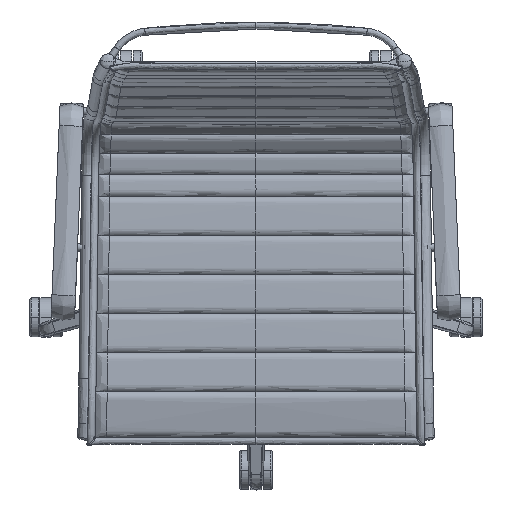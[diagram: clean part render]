
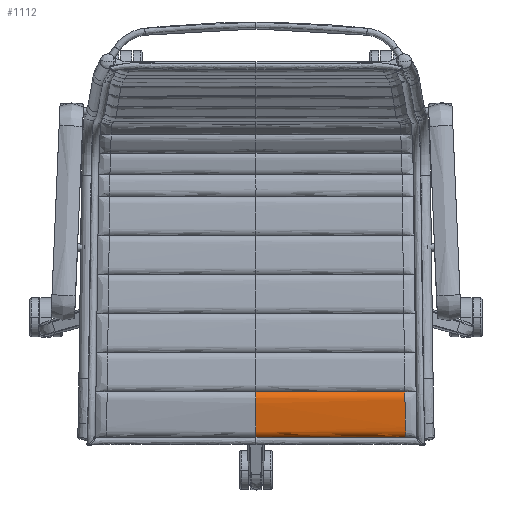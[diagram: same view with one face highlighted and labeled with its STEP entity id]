
A CAD part, top view. The second image highlights one B-rep face of the part: STEP entity #1112.
In plain terms, the highlighted free-form (B-spline) face has degree [1, 3] with [2, 18] control points.
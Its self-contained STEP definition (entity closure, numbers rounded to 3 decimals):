
#274=B_SPLINE_CURVE_WITH_KNOTS('',3,(#18597,#18598,#18599,#18600,#18601,
#18602,#18603,#18604,#18605,#18606,#18607,#18608,#18609,#18610,#18611,#18612,
#18613,#18614),.UNSPECIFIED.,.F.,.F.,(4,1,1,1,1,1,1,1,1,1,1,1,1,1,1,4),
(0.,5.218,7.859,10.489,13.074,
14.668,18.957,42.414,48.226,52.742,
57.543,62.,64.603,67.244,69.904,
75.155),.UNSPECIFIED.);
#275=B_SPLINE_CURVE_WITH_KNOTS('',1,(#18615,#18616),.UNSPECIFIED.,.F.,.F.,
(2,2),(0.,229.983),.UNSPECIFIED.);
#276=B_SPLINE_CURVE_WITH_KNOTS('',3,(#18617,#18618,#18619,#18620,#18621,
#18622,#18623,#18624,#18625,#18626,#18627,#18628,#18629,#18630,#18631,#18632,
#18633,#18634,#18635,#18636,#18637,#18638,#18639,#18640,#18641,#18642,#18643,
#18644,#18645,#18646,#18647,#18648,#18649,#18650,#18651,#18652,#18653,#18654,
#18655,#18656,#18657,#18658,#18659,#18660,#18661,#18662,#18663,#18664),
 .UNSPECIFIED.,.F.,.F.,(4,3,3,3,3,3,3,3,3,3,3,3,2,3,3,3,4),(0.,5.272,
7.939,10.583,13.187,17.644,22.444,
26.958,32.769,56.228,60.516,62.11,
63.403,64.696,67.33,69.98,75.221),
 .UNSPECIFIED.);
#277=B_SPLINE_CURVE_WITH_KNOTS('',1,(#18665,#18666),.UNSPECIFIED.,.F.,.F.,
(2,2),(-228.563,0.),.UNSPECIFIED.);
#849=B_SPLINE_SURFACE_WITH_KNOTS('',1,3,((#14533,#14534,#14535,#14536,#14537,
#14538,#14539,#14540,#14541,#14542,#14543,#14544,#14545,#14546,#14547,#14548,
#14549,#14550),(#14551,#14552,#14553,#14554,#14555,#14556,#14557,#14558,
#14559,#14560,#14561,#14562,#14563,#14564,#14565,#14566,#14567,#14568)),
 .UNSPECIFIED.,.F.,.F.,.F.,(2,2),(4,1,1,1,1,1,1,1,1,1,1,1,1,1,1,4),(0.,
295.915),(0.,5.218,7.859,10.489,
13.074,14.668,18.957,42.414,48.226,
52.742,57.543,62.,64.603,67.244,
69.904,75.155),.UNSPECIFIED.);
#1112=ADVANCED_FACE('',(#1716),#849,.T.);
#1716=FACE_OUTER_BOUND('',#2320,.T.);
#2320=EDGE_LOOP('',(#3108,#3109,#3110,#3111));
#3108=ORIENTED_EDGE('',*,*,#5635,.F.);
#3109=ORIENTED_EDGE('',*,*,#5634,.F.);
#3110=ORIENTED_EDGE('',*,*,#5637,.F.);
#3111=ORIENTED_EDGE('',*,*,#5636,.F.);
#5634=EDGE_CURVE('',#7763,#7765,#274,.T.);
#5635=EDGE_CURVE('',#7765,#7784,#275,.T.);
#5636=EDGE_CURVE('',#7784,#7785,#276,.T.);
#5637=EDGE_CURVE('',#7785,#7763,#277,.T.);
#7763=VERTEX_POINT('',#17568);
#7765=VERTEX_POINT('',#17570);
#7784=VERTEX_POINT('',#17589);
#7785=VERTEX_POINT('',#17590);
#14533=CARTESIAN_POINT('',(228.563,-201.438,489.057));
#14534=CARTESIAN_POINT('',(228.524,-202.47,490.457));
#14535=CARTESIAN_POINT('',(228.476,-204.297,492.387));
#14536=CARTESIAN_POINT('',(228.46,-207.429,494.022));
#14537=CARTESIAN_POINT('',(228.475,-209.985,494.64));
#14538=CARTESIAN_POINT('',(228.506,-212.259,494.777));
#14539=CARTESIAN_POINT('',(228.554,-215.079,494.69));
#14540=CARTESIAN_POINT('',(228.729,-224.842,494.129));
#14541=CARTESIAN_POINT('',(228.95,-235.975,492.973));
#14542=CARTESIAN_POINT('',(229.195,-247.098,491.223));
#14543=CARTESIAN_POINT('',(229.308,-252.064,490.353));
#14544=CARTESIAN_POINT('',(229.412,-256.577,489.518));
#14545=CARTESIAN_POINT('',(229.499,-260.477,488.865));
#14546=CARTESIAN_POINT('',(229.582,-263.604,488.02));
#14547=CARTESIAN_POINT('',(229.664,-265.997,486.891));
#14548=CARTESIAN_POINT('',(229.796,-268.783,484.692));
#14549=CARTESIAN_POINT('',(229.908,-270.216,482.431));
#14550=CARTESIAN_POINT('',(229.983,-270.955,480.847));
#14551=CARTESIAN_POINT('',(-67.352,-201.438,489.057));
#14552=CARTESIAN_POINT('',(-67.391,-202.47,490.457));
#14553=CARTESIAN_POINT('',(-67.439,-204.297,492.387));
#14554=CARTESIAN_POINT('',(-67.455,-207.429,494.022));
#14555=CARTESIAN_POINT('',(-67.439,-209.985,494.64));
#14556=CARTESIAN_POINT('',(-67.409,-212.259,494.777));
#14557=CARTESIAN_POINT('',(-67.361,-215.079,494.69));
#14558=CARTESIAN_POINT('',(-67.185,-224.842,494.129));
#14559=CARTESIAN_POINT('',(-66.964,-235.975,492.973));
#14560=CARTESIAN_POINT('',(-66.72,-247.098,491.223));
#14561=CARTESIAN_POINT('',(-66.607,-252.064,490.353));
#14562=CARTESIAN_POINT('',(-66.503,-256.577,489.518));
#14563=CARTESIAN_POINT('',(-66.416,-260.477,488.865));
#14564=CARTESIAN_POINT('',(-66.333,-263.604,488.02));
#14565=CARTESIAN_POINT('',(-66.25,-265.997,486.891));
#14566=CARTESIAN_POINT('',(-66.119,-268.783,484.692));
#14567=CARTESIAN_POINT('',(-66.007,-270.216,482.431));
#14568=CARTESIAN_POINT('',(-65.932,-270.955,480.847));
#17568=CARTESIAN_POINT('',(228.563,-201.438,489.057));
#17570=CARTESIAN_POINT('',(229.983,-270.955,480.847));
#17589=CARTESIAN_POINT('',(0.,-270.955,480.847));
#17590=CARTESIAN_POINT('',(0.,-201.438,489.057));
#18597=CARTESIAN_POINT('',(228.563,-201.438,489.057));
#18598=CARTESIAN_POINT('',(228.524,-202.47,490.457));
#18599=CARTESIAN_POINT('',(228.476,-204.297,492.387));
#18600=CARTESIAN_POINT('',(228.46,-207.429,494.022));
#18601=CARTESIAN_POINT('',(228.475,-209.985,494.64));
#18602=CARTESIAN_POINT('',(228.506,-212.259,494.777));
#18603=CARTESIAN_POINT('',(228.554,-215.079,494.69));
#18604=CARTESIAN_POINT('',(228.729,-224.842,494.129));
#18605=CARTESIAN_POINT('',(228.95,-235.975,492.973));
#18606=CARTESIAN_POINT('',(229.195,-247.098,491.223));
#18607=CARTESIAN_POINT('',(229.308,-252.064,490.353));
#18608=CARTESIAN_POINT('',(229.412,-256.577,489.518));
#18609=CARTESIAN_POINT('',(229.499,-260.477,488.865));
#18610=CARTESIAN_POINT('',(229.582,-263.604,488.02));
#18611=CARTESIAN_POINT('',(229.664,-265.997,486.891));
#18612=CARTESIAN_POINT('',(229.796,-268.783,484.692));
#18613=CARTESIAN_POINT('',(229.908,-270.216,482.431));
#18614=CARTESIAN_POINT('',(229.983,-270.955,480.847));
#18615=CARTESIAN_POINT('',(229.983,-270.955,480.847));
#18616=CARTESIAN_POINT('',(0.,-270.955,480.847));
#18617=CARTESIAN_POINT('',(0.,-270.955,480.847));
#18618=CARTESIAN_POINT('',(0.,-270.219,482.425));
#18619=CARTESIAN_POINT('',(0.,-269.268,483.928));
#18620=CARTESIAN_POINT('',(0.,-268.025,485.163));
#18621=CARTESIAN_POINT('',(0.,-267.396,485.787));
#18622=CARTESIAN_POINT('',(0.,-266.693,486.341));
#18623=CARTESIAN_POINT('',(0.,-265.94,486.808));
#18624=CARTESIAN_POINT('',(0.,-265.192,487.271));
#18625=CARTESIAN_POINT('',(0.,-264.392,487.649));
#18626=CARTESIAN_POINT('',(0.,-263.567,487.952));
#18627=CARTESIAN_POINT('',(0.,-262.752,488.251));
#18628=CARTESIAN_POINT('',(0.,-261.912,488.477));
#18629=CARTESIAN_POINT('',(0.,-261.068,488.673));
#18630=CARTESIAN_POINT('',(0.,-259.621,489.008));
#18631=CARTESIAN_POINT('',(0.,-258.155,489.253));
#18632=CARTESIAN_POINT('',(0.,-256.693,489.511));
#18633=CARTESIAN_POINT('',(0.,-255.117,489.788));
#18634=CARTESIAN_POINT('',(0.,-253.544,490.079));
#18635=CARTESIAN_POINT('',(0.,-251.969,490.363));
#18636=CARTESIAN_POINT('',(0.,-250.488,490.629));
#18637=CARTESIAN_POINT('',(0.,-249.006,490.889));
#18638=CARTESIAN_POINT('',(0.,-247.522,491.137));
#18639=CARTESIAN_POINT('',(0.,-245.611,491.457));
#18640=CARTESIAN_POINT('',(0.,-243.698,491.758));
#18641=CARTESIAN_POINT('',(0.,-241.781,492.039));
#18642=CARTESIAN_POINT('',(0.,-234.046,493.173));
#18643=CARTESIAN_POINT('',(0.,-226.265,493.981));
#18644=CARTESIAN_POINT('',(0.,-218.463,494.485));
#18645=CARTESIAN_POINT('',(0.,-217.037,494.577));
#18646=CARTESIAN_POINT('',(0.,-215.61,494.659));
#18647=CARTESIAN_POINT('',(0.,-214.181,494.714));
#18648=CARTESIAN_POINT('',(0.,-213.65,494.734));
#18649=CARTESIAN_POINT('',(0.,-213.12,494.75));
#18650=CARTESIAN_POINT('',(0.,-212.588,494.748));
#18651=CARTESIAN_POINT('',(0.,-212.157,494.747));
#18652=CARTESIAN_POINT('',(0.,-211.726,494.733));
#18653=CARTESIAN_POINT('',(0.,-210.867,494.674));
#18654=CARTESIAN_POINT('',(0.,-210.438,494.63));
#18655=CARTESIAN_POINT('',(0.,-210.011,494.566));
#18656=CARTESIAN_POINT('',(0.,-209.145,494.437));
#18657=CARTESIAN_POINT('',(0.,-208.289,494.23));
#18658=CARTESIAN_POINT('',(0.,-207.468,493.922));
#18659=CARTESIAN_POINT('',(0.,-206.644,493.612));
#18660=CARTESIAN_POINT('',(0.,-205.855,493.2));
#18661=CARTESIAN_POINT('',(0.,-205.125,492.709));
#18662=CARTESIAN_POINT('',(0.,-203.679,491.736));
#18663=CARTESIAN_POINT('',(0.,-202.466,490.452));
#18664=CARTESIAN_POINT('',(0.,-201.438,489.057));
#18665=CARTESIAN_POINT('',(0.,-201.438,489.057));
#18666=CARTESIAN_POINT('',(228.563,-201.438,489.057));
